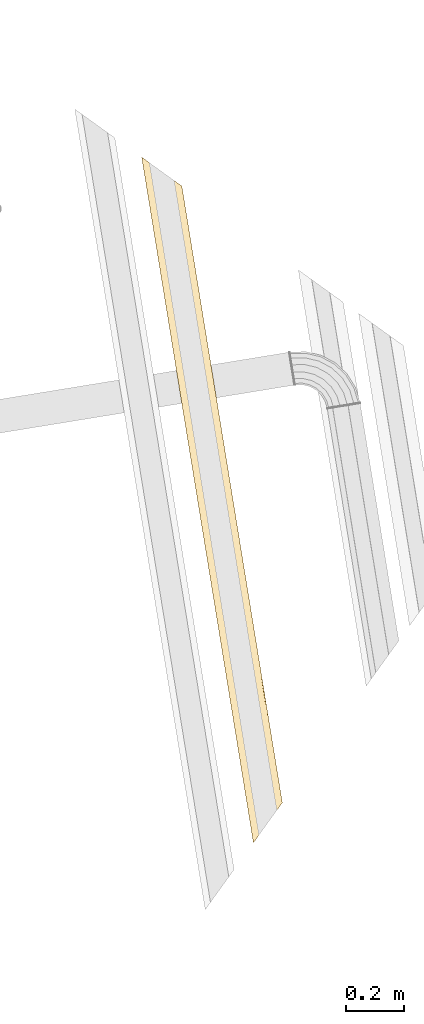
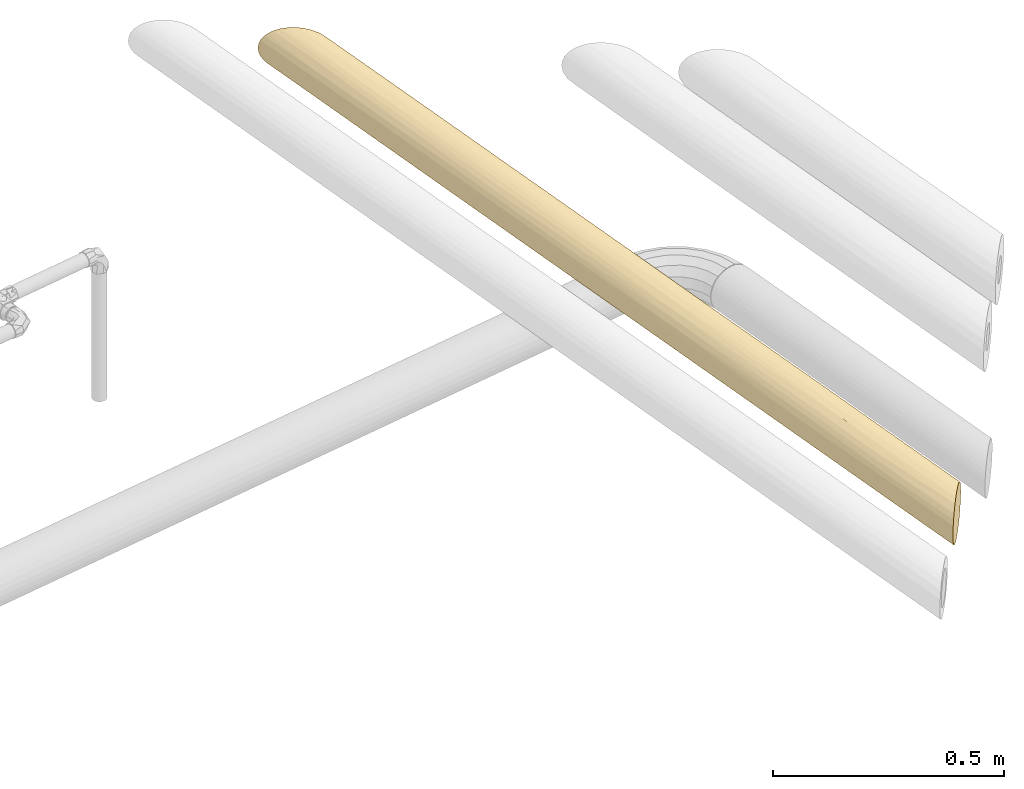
# One storey, part 8 of 46: 1 covering.
"""IFC2X3 building model written with IfcOpenShell, lengths in millimetres."""

from ifc_helpers import new_model, entity, si_unit, converted_unit, derived_unit, direction, frame, origin, origin_with_axes, place, context, subcontext, project, spatial, faceted_brep, type_object, element, save


model = new_model("IFC2X3")

# Units and contexts
model_context = context("Model", 3, precision=0.01, world=origin(), true_north=direction((6.12323399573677e-17, 1.0)))
plan_context = context("Plan", 3, precision=1e-05, world=origin_with_axes())
body_context = subcontext(model_context, "Body", "Model", "MODEL_VIEW")
ifc_project = project(units=[converted_unit("PLANEANGLEUNIT", "DEGREE", entity("IfcPositiveLengthMeasure", 0.0174532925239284), si_unit("PLANEANGLEUNIT", "RADIAN"), dimensions=[0, 0, 0, 0, 0, 0, 0]), si_unit("AREAUNIT", "SQUARE_METRE"), si_unit("LENGTHUNIT", "METRE", prefix="MILLI"), si_unit("MASSUNIT", "GRAM", prefix="KILO"), si_unit("POWERUNIT", "WATT"), si_unit("PRESSUREUNIT", "PASCAL", prefix="KILO"), si_unit("FORCEUNIT", "NEWTON", prefix="KILO"), si_unit("ELECTRICVOLTAGEUNIT", "VOLT"), si_unit("ELECTRICCURRENTUNIT", "AMPERE"), si_unit("THERMODYNAMICTEMPERATUREUNIT", "DEGREE_CELSIUS"), si_unit("TIMEUNIT", "SECOND"), si_unit("VOLUMEUNIT", "CUBIC_METRE"), derived_unit("LINEARVELOCITYUNIT", [(si_unit("LENGTHUNIT", "METRE"), 1), (si_unit("TIMEUNIT", "SECOND"), -1)]), derived_unit("VOLUMETRICFLOWRATEUNIT", [(si_unit("VOLUMEUNIT", "CUBIC_METRE"), 1), (si_unit("TIMEUNIT", "SECOND"), -1)]), derived_unit("THERMALTRANSMITTANCEUNIT", [(si_unit("POWERUNIT", "WATT"), 1), (si_unit("THERMODYNAMICTEMPERATUREUNIT", "KELVIN"), -1), (si_unit("AREAUNIT", "SQUARE_METRE"), -1)]), derived_unit("SOUNDPRESSUREUNIT", [(si_unit("PRESSUREUNIT", "PASCAL"), 1)])], contexts=[model_context, plan_context])

# Site, building, storey
site_placement = place(None, frame((-3.09682673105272e-06, 1.93776733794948e-05, 0.0), z_axis=(0.0, 0.0, 1.0), x_axis=(-0.160806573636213, 0.986985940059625, 0.0)))
site = spatial("IfcSite", under=ifc_project, at=site_placement, Name="Default", CompositionType="ELEMENT")
building_placement = place(site_placement, frame((0.0, 0.0, 0.0), z_axis=(0.0, 0.0, 1.0), x_axis=(1.0, -2.77555756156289e-17, 0.0)))
building = spatial("IfcBuilding", under=site, at=building_placement, Name="Bygning (endres i Project Information)", CompositionType="ELEMENT")
storey_placement = place(building_placement, frame((0.0, 0.0, 51360.0000000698), z_axis=(0.0, 0.0, 1.0), x_axis=(1.0, -2.77555756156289e-17, 0.0)))
storey = spatial("IfcBuildingStorey", under=building, at=storey_placement, Name="H01-Nivå D+0,36", CompositionType="ELEMENT", Elevation=51360.0000000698)

# Covering
covering_type = type_object("IfcCoveringType", Name="Pipe Insulation:GLAVA avløpsisol. slange økende 19mm (15,5-25,0)", PredefinedType="INSULATION")
covering_placement = place(storey_placement, frame((999799.867642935, -356662.461006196, 3598.35472846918), z_axis=(0.0, 0.0, 1.0), x_axis=(1.0, -2.77555756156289e-17, 0.0)))
element("IfcCovering", 1, at=covering_placement, inside=storey, type_object=covering_type, Name="Pipe Insulation:GLAVA avløpsisol. slange økende 19mm (15,5-25,0)", ObjectType="Pipe Insulation:GLAVA avløpsisol. slange økende 19mm (15,5-25,0)", PredefinedType="INSULATION", context=body_context, shape_type="Brep", body=[
    faceted_brep([(6955.83632978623, 115.965629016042, 36.048491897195), (6959.69852542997, 112.103433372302, 29.6857093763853), (7070.00736755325, 115.878317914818, 35.8619611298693), (6962.91406898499, 108.887889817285, 24.5926855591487), (7176.70875721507, 107.78024546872, 23.2061430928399), (7487.47655863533, 113.241761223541, 30.9238674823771), (7527.90381443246, 102.867905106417, 17.979530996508), (7203.4904174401, 97.6938975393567, 13.6192475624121), (7608.30264200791, 92.415772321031, 10.078046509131), (7230.3298394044, 85.6441613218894, 6.59932977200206), (6985.73664819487, 86.0653106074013, 7.21887650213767), (6988.32027353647, 83.4816852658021, 5.71858184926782), (6990.75463418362, 81.0473246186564, 4.95150562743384), (7244.39459541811, 73.5246713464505, 2.78202089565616), (7563.04482402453, 79.7145819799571, 4.37833137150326), (7594.21134831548, 61.6452715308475, 1.5952722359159), (7862.37224216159, 72.7074006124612, 2.62297307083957), (7761.6845732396, 61.6452715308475, 1.59527223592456), (8060.63151289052, 61.6452715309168, 1.5952722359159), (8138.21333602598, 78.2204143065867, 3.92814186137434), (7898.74747230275, 85.4346906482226, 6.50847843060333), (8333.82460072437, 96.0123250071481, 12.4019161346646), (7905.54542409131, 98.58052439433, 14.2977318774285), (8288.03691973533, 107.14396142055, 22.4550733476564), (7897.39625349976, 109.334263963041, 25.1519513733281), (8228.10532693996, 115.40537909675, 34.8898375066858), (8617.05437461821, 107.643949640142, 23.0431468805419), (8758.16910968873, 114.022025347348, 32.2738896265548), (9108.11957542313, 109.96563482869, 25.9921523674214), (9239.84423281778, 117.768765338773, 40.2874659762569), (8877.56233476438, 120.047104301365, 47.6728578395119), (9329.86496861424, 119.551579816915, 46.8597106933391), (9331.07836288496, 120.764974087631, 51.2052952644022), (9328.35034395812, 118.03695516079, 41.0727141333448), (9326.37525023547, 116.061861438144, 36.8005404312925), (9322.34796474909, 112.034575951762, 94.2385255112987), (9317.2863766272, 106.972987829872, 100.688654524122), (9141.82562959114, 110.867866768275, 96.0420523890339), (9311.12014220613, 100.806753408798, 106.977215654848), (9188.55273349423, 97.8094518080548, 109.584342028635), (8865.48160713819, 100.904800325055, 107.08415151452), (8741.34585410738, 110.493282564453, 96.5719695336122), (8911.20629341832, 117.078889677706, 84.7345849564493), (8565.05804900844, 117.033770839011, 84.8426110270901), (8356.92413114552, 111.186129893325, 95.5820623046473), (8541.04585576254, 103.758542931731, 104.452686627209), (8203.91308143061, 102.480274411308, 105.673727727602), (8273.95976500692, 92.5554997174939, 113.128863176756), (7940.78251789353, 95.7728634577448, 111.054884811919), (7859.45303001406, 107.398094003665, 100.538479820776), (7567.11930119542, 104.022933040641, 104.190967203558), (7594.21039981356, 94.6901449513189, 111.785462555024), (7710.00815313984, 85.0696807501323, 116.938123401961), (7360.99986692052, 78.4990596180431, 119.2816510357), (7259.30102237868, 95.9267695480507, 110.948225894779), (6981.91437851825, 89.8875802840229, 114.61402787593), (6981.58128088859, 90.2206779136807, 114.450741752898), (6981.26950236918, 90.5324564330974, 114.191895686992), (7183.84432971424, 105.304865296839, 102.874415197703), (6970.41353272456, 101.388426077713, 106.199887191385), (7004.89981223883, 66.902146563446, 2.03498822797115), (7010.15668727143, 61.6452715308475, 1.59527223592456), (7127.7901593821, 61.6452715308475, 1.59527223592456), (6999.6091508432, 72.192807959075, 2.53550327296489), (7021.06880294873, 50.7331558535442, 2.78712638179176), (7295.26380178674, 61.6452715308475, 1.59527223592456), (7035.88424795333, 35.9177108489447, 7.38612988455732), (7037.74631125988, 34.0556475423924, 8.51623215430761), (7070.00735867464, 35.8619610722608, 7.41222517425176), (7047.75952955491, 24.0424292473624, 14.8422274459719), (7176.70875064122, 23.2061428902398, 15.5102977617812), (7487.47654593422, 30.9238674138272, 10.0487818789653), (7527.90380830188, 17.9795310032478, 20.422637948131), (7203.490413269, 13.6192472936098, 25.5966458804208), (7608.30264050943, 10.0780465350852, 30.874770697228), (7230.3298375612, 6.59932957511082, 37.646382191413), (7062.33174557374, 9.47021322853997, 33.134865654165), (7065.80139914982, 6.0005596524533, 39.116525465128), (7067.5069466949, 4.29501210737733, 44.5195991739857), (7244.394589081, 2.78202082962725, 49.7658720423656), (7563.04482471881, 4.37833141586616, 43.5759609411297), (7594.21040519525, 1.59527223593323, 61.6452715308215), (7862.3722385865, 2.62297306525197, 50.5831424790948), (8060.63147128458, 1.59527223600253, 61.6452715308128), (7674.74366523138, 2.86480715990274, 73.927755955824), (7977.57618612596, 4.27517935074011, 79.3843509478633), (7710.00816094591, 6.35241968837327, 85.0696808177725), (7940.78251742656, 12.2356582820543, 95.7728635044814), (7594.21040056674, 11.5050805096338, 94.6901449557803), (7360.99986755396, 4.00889203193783, 78.499059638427), (7259.30102347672, 12.342317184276, 95.9267695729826), (7064.13784893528, 7.66410986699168, 87.4174153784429), (7061.94858974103, 9.8533690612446, 91.8719225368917), (7058.39448170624, 13.4074770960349, 96.1566582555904), (7183.84433138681, 20.4161278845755, 105.304865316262), (7053.4180075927, 18.383951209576, 102.91155199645), (7056.8630444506, 14.9389143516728, 23.9812821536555), (7059.30655947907, 12.4953993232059, 27.2838384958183), (7069.9999085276, 1.80205027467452, 59.1732069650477), (7070.20668656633, 1.59527223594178, 61.6452715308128), (7127.78933910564, 1.59527223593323, 61.6452715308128), (7070.03063549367, 1.77132330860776, 63.3838215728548), (7069.26371815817, 2.53824064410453, 68.7223817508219), (7068.05003774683, 3.75192105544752, 77.5872623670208), (7360.99987215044, 1.59527223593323, 61.6452715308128), (7069.196375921, 2.60558288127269, 50.7191152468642), (7021.41767916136, 50.3842796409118, 120.629491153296), (7010.70957378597, 61.0923850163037, 121.643892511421), (7185.7499977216, 50.5802413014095, 120.66702617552), (7010.15668727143, 61.6452715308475, 121.69527082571), (7370.00154299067, 61.6452715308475, 121.695270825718), (7464.31234833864, 42.498940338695, 118.561178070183), (7031.73762854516, 40.0643302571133, 117.679160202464), (7030.24090236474, 41.5610564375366, 118.093196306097), (7033.38575134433, 38.4162074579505, 116.896559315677), (7195.02954729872, 30.9238391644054, 113.241744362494), (7512.57035378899, 28.2915447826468, 111.580542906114), (7567.11930454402, 19.0995758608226, 104.022933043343), (7859.45303252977, 22.7520632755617, 107.398094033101), (7881.72149205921, 35.079157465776, 115.499185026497), (8356.92413389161, 27.7084807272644, 111.186129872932), (8252.11030770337, 37.4590015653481, 116.609139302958), (8565.05805149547, 38.447932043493, 117.033770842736), (8291.24999826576, 48.6162535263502, 120.264782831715), (7896.04833309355, 49.1230061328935, 120.375121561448), (8107.00046289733, 61.6452715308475, 121.695270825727), (7738.49976855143, 61.6452715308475, 121.695270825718), (8060.63065333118, 61.6452715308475, 121.695270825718), (7594.20980125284, 61.6452715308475, 121.695270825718), (7674.74366293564, 73.9277558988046, 120.425735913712), (7977.57618021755, 79.3843510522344, 119.015363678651), (8339.2889028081, 72.4276226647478, 120.719320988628), (8452.31573249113, 82.8594981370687, 117.823194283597), (8648.15786550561, 72.4276226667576, 120.719320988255), (8974.97957575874, 80.6243942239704, 118.617153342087), (8844.0, 61.6452715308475, 121.695270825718), (9235.68340831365, 61.6452715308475, 121.695270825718), (9271.95866032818, 61.6452715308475, 121.695270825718), (9270.23724560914, 59.9238568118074, 121.55107466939), (9077.21053183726, 51.6550647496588, 120.858430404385), (8736.18517815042, 49.2981530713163, 120.41219318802), (8475.50115724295, 61.6452715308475, 121.69527082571), (8911.20629585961, 38.5559581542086, 117.078889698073), (8741.34585767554, 26.7185735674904, 110.493282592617), (9141.82563259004, 27.2484907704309, 110.8678668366), (8865.48160656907, 16.2063915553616, 100.904800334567), (9188.55273445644, 13.7062009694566, 97.8094517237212), (9235.09197338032, 24.7785845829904, 108.797539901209), (9224.79039969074, 14.4770108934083, 98.6956189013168), (9238.52799442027, 28.214605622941, 111.492850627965), (9261.28326352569, 50.9698747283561, 120.736091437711), (9250.93080912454, 40.6174203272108, 117.879726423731), (9295.04150303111, 84.7281142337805, 116.985713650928), (9286.16819394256, 75.8548051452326, 119.892211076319), (9298.62578990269, 88.3124011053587, 115.401486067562), (8918.30341659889, 91.3189631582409, 113.851348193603), (9303.6756961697, 93.3623073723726, 112.254675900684), (9307.36570871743, 97.0523199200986, 110.134497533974), (9216.2164261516, 5.90303735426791, 83.7174473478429), (9214.00739099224, 3.69400219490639, 76.9608141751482), (8974.97957492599, 4.67338980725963, 80.6243944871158), (9218.5289088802, 8.21552008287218, 88.9455909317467), (8918.30341011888, 9.43919492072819, 91.3189632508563), (9223.21556825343, 12.9021794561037, 96.470443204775), (9223.85611982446, 13.5427310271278, 97.584482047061), (8452.31573314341, 5.46734877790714, 82.8594981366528), (8648.15786615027, 2.57122207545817, 72.4276226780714), (8844.0, 1.59527223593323, 61.6452715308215), (9212.18610179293, 1.87271299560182, 63.3559216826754), (9211.90866103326, 1.59527223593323, 61.6452715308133), (9212.18590169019, 1.8725128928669, 59.9330059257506), (8975.63457158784, 4.66341569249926, 42.6961153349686), (9214.00061102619, 3.68722222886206, 46.355505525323), (9221.69616782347, 11.3827790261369, 28.9629338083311), (9222.42243025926, 12.1090414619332, 27.7029833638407), (9182.10200001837, 12.0505121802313, 27.7872996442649), (9216.1890793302, 5.87569053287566, 39.6392863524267), (8880.98127725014, 9.47343901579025, 31.9114136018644), (8452.315717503, 3.89686911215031, 45.1794149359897), (8333.82459914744, 12.4019161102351, 27.278218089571), (8843.99998912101, 16.5959522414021, 21.9393368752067), (8617.05436639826, 23.0431471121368, 15.6465932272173), (8288.03691343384, 22.4550734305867, 16.1465815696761), (8228.10532083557, 34.8898377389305, 7.88516384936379), (8758.16910701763, 32.2738897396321, 9.268517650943), (9108.11957576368, 25.9921525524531, 13.3249080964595), (9239.84423570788, 40.2874660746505, 5.52177768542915), (8877.56233310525, 47.6728578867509, 3.24343874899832), (9251.44802577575, 41.1346369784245, 5.29197057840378), (9260.97263038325, 50.6592415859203, 2.63653921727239), (9250.69714457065, 40.3837557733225, 5.48889137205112), (9250.18418760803, 39.870798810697, 5.7257427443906), (9302.2492085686, 91.9358197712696, 10.0242976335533), (9306.0758806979, 95.7624919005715, 12.2304730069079), (9182.10200406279, 95.503243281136, 12.0505120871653), (9294.96569344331, 84.6523046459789, 6.27268533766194), (8975.63457686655, 80.5944274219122, 4.6634155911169), (8880.98129162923, 91.3791291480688, 9.47343883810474), (8452.31572821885, 78.1111282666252, 3.89686915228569), (8843.99999470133, 101.351205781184, 16.5959518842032), (8844.00051217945, 61.6452715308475, 1.5952722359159), (8452.31652471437, 61.6452715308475, 1.59527223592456), (8694.52710776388, 61.6452715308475, 1.59527223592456), (9160.94787921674, 61.6452715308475, 1.5952722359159), (8461.31585585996, 47.9028557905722, 3.18889099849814), (8228.10534469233, 61.6452715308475, 1.59527223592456), (8102.86671587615, 49.0213114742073, 2.93719672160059), (7819.57704686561, 40.9947499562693, 5.257698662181), (7672.4838756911, 50.7047614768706, 2.60030853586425), (7396.40431467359, 45.9352600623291, 3.68668325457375), (7897.39624455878, 25.1519515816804, 13.9562789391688), (9235.68449964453, 61.6452715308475, 1.59527223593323), (9274.31596044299, 64.0025716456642, 1.83220024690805), (9286.14092954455, 75.8275407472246, 3.39178198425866), (9271.95866032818, 61.6452715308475, 1.59527223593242), (9267.46474526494, 57.1513564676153, 1.96946947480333), (9310.22702963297, 99.9136408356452, 15.7126475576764), (9316.57212562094, 106.258736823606, 21.6774824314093), (9321.96744410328, 111.654055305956, 28.5070474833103), (9233.70608015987, 23.3926913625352, 15.5582046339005), (9237.83097415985, 27.5175853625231, 12.3007811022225), (9223.5485475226, 13.2351587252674, 26.3606014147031), (7905.54542005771, 14.2977319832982, 24.710018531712), (7898.74746867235, 6.50847844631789, 37.8558523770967), (8138.21332875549, 3.9281418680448, 45.0701287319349), (8452.31573564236, 1.59527223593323, 61.6452715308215), (8339.2889041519, 2.57122207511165, 72.4276226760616), (8273.95976234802, 10.1616798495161, 92.5554996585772), (8609.67549944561, 10.7562465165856, 93.5248817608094), (8541.04585583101, 18.8378565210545, 103.758543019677), (8203.91308177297, 17.6168153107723, 102.480274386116), (9250.51235440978, 40.1989656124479, 117.692176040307), (9250.79041035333, 40.4770215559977, 117.84029330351), (9274.32259677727, 64.0092079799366, 121.457040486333), (8609.67550234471, 93.524881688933, 112.534296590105), (8452.31659168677, 61.6452715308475, 121.695270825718), (7047.69215436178, 24.109804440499, 108.215595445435), (7041.87274089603, 29.9292179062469, 112.621578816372), (7051.22188009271, 20.580078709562, 105.457305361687), (7127.7889491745, 61.6452715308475, 121.695270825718), (6997.76289634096, 77.368495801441, 119.600276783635), (7006.50604080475, 65.2959179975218, 121.325594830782), (6994.4783055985, 77.3236532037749, 119.610936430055), (6994.3623681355, 77.4395906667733, 119.576501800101), (7051.13191411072, 20.6700446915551, 17.9678948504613), (7023.46679109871, 48.3351677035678, 3.09648628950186), (7030.95725021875, 40.8447085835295, 5.70169010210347), (6966.24698087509, 105.554977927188, 102.605416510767), (6961.7490277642, 110.052931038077, 96.8491849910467), (6959.51386915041, 112.288089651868, 93.8961749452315), (7195.02954489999, 113.24174435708, 92.3667039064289), (7512.57035104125, 111.580542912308, 94.9989982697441), (7464.31234613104, 118.561178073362, 80.7916027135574), (7001.49999583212, 117.617505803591, 83.3963957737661), (7185.749995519, 120.667026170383, 72.7103017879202), (7370.00098592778, 121.695270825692, 61.6452715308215), (7001.50073944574, 121.695270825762, 61.6452715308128), (7295.26168051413, 121.695270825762, 61.6452715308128), (6951.18850864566, 120.613450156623, 72.9900097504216), (6950.38617699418, 121.415781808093, 64.5298532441), (6950.10668797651, 121.695270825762, 61.6452715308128), (6954.33952959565, 117.462429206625, 83.7653816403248), (6953.48859127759, 118.313367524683, 80.993768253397), (6951.52359942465, 120.278359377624, 48.6775052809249), (6951.76580759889, 120.036151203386, 47.9595330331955), (6969.53408224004, 120.279408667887, 48.682232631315), (6951.33944731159, 120.462511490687, 50.358645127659), (7396.40431706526, 119.603859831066, 45.9352601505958), (7672.4838753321, 120.690234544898, 50.7047615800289), (7819.57705596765, 118.032844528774, 40.99475030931), (8102.86672583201, 120.353346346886, 49.021311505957), (7761.68324230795, 121.695270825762, 61.6452715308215), (8228.10480410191, 121.695270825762, 61.6452715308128), (8107.00147889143, 121.695270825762, 61.6452715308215), (7738.50123240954, 121.695270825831, 61.6452715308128), (7896.04833134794, 120.37512155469, 74.1675369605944), (7881.72148967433, 115.499185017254, 88.2113856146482), (8252.11030567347, 116.609139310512, 85.8315414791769), (8291.24999653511, 120.264782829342, 74.6742895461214), (8736.18517665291, 120.412193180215, 73.992390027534), (8475.50172537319, 121.695270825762, 61.6452715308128), (8694.52436265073, 121.695270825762, 61.6452715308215), (8844.0, 121.695270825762, 61.6452715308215), (9077.21053052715, 120.858430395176, 71.6354783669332), (9160.94592444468, 121.695270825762, 61.6452715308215), (9310.42058969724, 121.695270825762, 61.6452715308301), (9331.69273659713, 121.379347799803, 65.0282976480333), (9331.00314278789, 120.68975399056, 72.5801928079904), (9329.85615217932, 119.542763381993, 76.7412277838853), (9252.94838855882, 117.845131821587, 82.8013136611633), (9328.34037077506, 118.026981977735, 82.2754170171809), (9332.00865962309, 121.695270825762, 61.6452715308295), (9331.40981933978, 121.096430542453, 54.453509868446), (8461.31586083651, 120.101652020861, 47.9028556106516), (6956.19396294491, 115.607995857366, 87.3102778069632), (6990.13243669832, 81.6695221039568, 117.886424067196), (9326.78261565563, 116.469226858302, 85.6550933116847), (7361.00075384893, 61.6452715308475, 1.59527223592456), (6976.76117339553, 95.040785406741, 11.8519954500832), (6971.55285269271, 100.249106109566, 15.7067183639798), (6968.10420149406, 103.697757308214, 18.993251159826)], [[[0, 1, 2]], [[1, 3, 4, 2]], [[2, 4, 5]], [[4, 6, 5]], [[6, 4, 7]], [[6, 7, 8]], [[9, 8, 7]], [[10, 11, 9, 7]], [[11, 12, 13, 9]], [[9, 13, 14]], [[13, 15, 14]], [[14, 15, 16]], [[15, 17, 18, 16]], [[16, 18, 19]], [[20, 16, 19]], [[20, 19, 21]], [[22, 20, 21]], [[8, 20, 22]], [[20, 8, 14]], [[21, 23, 22]], [[24, 22, 23]], [[25, 24, 23]], [[23, 26, 25]], [[25, 26, 27]], [[28, 27, 26]], [[27, 28, 29]], [[29, 30, 27]], [[31, 32, 30, 29]], [[33, 31, 29]], [[34, 33, 29]], [[35, 36, 37]], [[36, 38, 39, 37]], [[40, 37, 39]], [[40, 41, 37]], [[42, 37, 41]], [[42, 41, 43]], [[44, 43, 41]], [[41, 45, 44]], [[44, 45, 46]], [[46, 45, 47]], [[47, 48, 46]], [[46, 48, 49]], [[49, 48, 50]], [[51, 50, 48]], [[52, 51, 48]], [[51, 52, 53]], [[51, 53, 54]], [[55, 56, 54, 53]], [[56, 57, 58, 54]], [[57, 59, 58]], [[60, 61, 62]], [[63, 60, 62, 13]], [[61, 64, 65]], [[66, 67, 68]], [[67, 69, 70, 68]], [[68, 70, 71]], [[70, 72, 71]], [[72, 70, 73]], [[72, 73, 74]], [[75, 74, 73]], [[76, 77, 75, 73]], [[77, 78, 79, 75]], [[75, 79, 80]], [[79, 81, 80]], [[80, 81, 82]], [[83, 82, 81]], [[81, 84, 83]], [[84, 85, 83]], [[85, 84, 86]], [[85, 86, 87]], [[86, 88, 87]], [[88, 86, 89]], [[88, 89, 90]], [[91, 92, 90, 89]], [[92, 93, 94, 90]], [[93, 95, 94]], [[96, 97, 73]], [[98, 99, 100]], [[99, 101, 100]], [[101, 102, 100]], [[102, 103, 89, 100]], [[81, 104, 100, 89]], [[105, 98, 100, 79]], [[106, 107, 108]], [[107, 109, 110, 108]], [[111, 108, 110]], [[112, 113, 108, 111]], [[114, 112, 111, 115]], [[116, 115, 111]], [[116, 94, 115]], [[116, 117, 94]], [[116, 118, 117]], [[119, 118, 116]], [[119, 120, 118]], [[121, 120, 119]], [[120, 121, 122]], [[123, 122, 121]], [[123, 121, 124]], [[125, 123, 124]], [[126, 127, 125, 124]], [[111, 126, 124]], [[111, 124, 119]], [[127, 126, 128, 129]], [[129, 130, 127]], [[130, 129, 52]], [[130, 131, 127]], [[131, 130, 132]], [[133, 131, 132]], [[133, 132, 134]], [[133, 134, 135]], [[136, 135, 134]], [[137, 138, 139, 135]], [[135, 139, 140]], [[141, 135, 140]], [[123, 141, 140]], [[140, 139, 142]], [[142, 122, 140]], [[142, 143, 122]], [[142, 144, 143]], [[145, 143, 144]], [[145, 144, 146]], [[147, 148, 146, 144]], [[149, 147, 144]], [[150, 151, 139]], [[152, 153, 134]], [[154, 152, 134, 155]], [[156, 154, 155, 39]], [[157, 156, 39]], [[158, 159, 160]], [[161, 158, 160, 162]], [[163, 161, 162, 146]], [[164, 163, 146]], [[162, 160, 165]], [[166, 165, 160]], [[166, 160, 167]], [[168, 169, 167, 160]], [[169, 170, 171, 167]], [[170, 172, 171]], [[173, 174, 175]], [[176, 173, 175, 171]], [[177, 171, 175]], [[171, 177, 178]], [[177, 179, 178]], [[177, 180, 179]], [[180, 181, 179]], [[182, 179, 181]], [[182, 181, 183]], [[183, 181, 184]], [[185, 184, 181]], [[184, 185, 186]], [[186, 187, 184]], [[188, 189, 187, 186]], [[190, 188, 186]], [[191, 190, 186]], [[192, 193, 194]], [[195, 192, 194, 196]], [[197, 196, 194]], [[196, 197, 198]], [[197, 21, 198]], [[197, 199, 21]], [[199, 26, 21]], [[198, 200, 196]], [[201, 202, 200, 198]], [[19, 201, 198]], [[203, 200, 202, 187]], [[204, 187, 202]], [[202, 201, 205, 204]], [[206, 204, 205]], [[204, 206, 183]], [[183, 206, 207]], [[208, 207, 206]], [[17, 208, 206]], [[207, 208, 209]], [[209, 208, 65]], [[209, 71, 207]], [[210, 207, 71]], [[183, 207, 210]], [[200, 203, 211, 196]], [[212, 213, 196, 211]], [[214, 212, 211]], [[215, 214, 203]], [[199, 197, 194]], [[199, 194, 28]], [[216, 217, 28, 194]], [[217, 218, 28]], [[213, 195, 196]], [[193, 216, 194]], [[219, 220, 185]], [[221, 219, 185, 175]], [[180, 175, 185]], [[189, 215, 203, 187]], [[187, 204, 184]], [[220, 191, 186, 185]], [[184, 204, 183]], [[183, 210, 182]], [[210, 222, 182]], [[210, 72, 222]], [[179, 182, 222]], [[222, 223, 179]], [[223, 224, 179]], [[223, 82, 224]], [[74, 223, 222]], [[223, 74, 80]], [[185, 181, 180]], [[179, 224, 178]], [[178, 224, 225]], [[225, 224, 83]], [[225, 167, 178]], [[180, 177, 175]], [[174, 221, 175]], [[172, 176, 171]], [[178, 167, 171]], [[83, 226, 166, 167, 225]], [[166, 226, 165]], [[226, 85, 165]], [[85, 227, 165]], [[165, 227, 228]], [[229, 228, 227]], [[230, 229, 227]], [[227, 87, 230]], [[230, 87, 118]], [[120, 229, 230]], [[143, 229, 120]], [[229, 145, 228]], [[162, 228, 145]], [[228, 162, 165]], [[159, 168, 160]], [[231, 149, 144]], [[148, 164, 146]], [[162, 145, 146]], [[143, 145, 229]], [[232, 231, 144, 142]], [[151, 232, 142, 139]], [[138, 150, 139]], [[233, 137, 136]], [[153, 233, 136, 134]], [[155, 134, 132]], [[234, 155, 132]], [[132, 47, 234]], [[155, 234, 40]], [[45, 40, 234]], [[130, 47, 132]], [[128, 53, 129]], [[133, 135, 141, 235, 125, 127, 131]], [[125, 235, 141, 123]], [[123, 140, 122]], [[120, 122, 143]], [[119, 124, 121]], [[230, 118, 120]], [[118, 87, 117]], [[236, 237, 115, 94]], [[238, 236, 94]], [[111, 119, 116]], [[237, 114, 115]], [[110, 128, 126, 111]], [[128, 110, 239, 53]], [[240, 53, 239]], [[241, 242, 240, 239]], [[242, 243, 240]], [[113, 106, 108]], [[109, 241, 239]], [[95, 238, 94]], [[117, 90, 94]], [[103, 91, 89]], [[90, 117, 88]], [[88, 117, 87]], [[227, 85, 87]], [[84, 89, 86]], [[85, 226, 83]], [[81, 89, 84]], [[82, 83, 224]], [[82, 223, 80]], [[79, 100, 104, 81]], [[78, 105, 79]], [[97, 76, 73]], [[75, 80, 74]], [[74, 222, 72]], [[244, 96, 73, 70]], [[210, 71, 72]], [[71, 209, 68]], [[245, 246, 68, 209]], [[69, 244, 70]], [[246, 66, 68]], [[64, 245, 209, 65]], [[247, 248, 58]], [[248, 249, 250, 58]], [[251, 58, 250]], [[251, 50, 58]], [[251, 250, 252]], [[253, 252, 250]], [[253, 254, 252]], [[252, 254, 255]], [[256, 257, 255, 254]], [[258, 259, 256, 254]], [[259, 260, 256]], [[261, 262, 253]], [[263, 264, 265]], [[266, 263, 265]], [[260, 266, 265, 257]], [[265, 267, 257]], [[267, 268, 257]], [[269, 268, 267]], [[268, 269, 270]], [[271, 268, 270]], [[272, 273, 271, 270]], [[274, 271, 273, 275]], [[252, 274, 275]], [[252, 275, 276]], [[276, 275, 277]], [[277, 44, 276]], [[276, 44, 49]], [[276, 49, 251]], [[278, 277, 275]], [[278, 43, 277]], [[278, 279, 43]], [[278, 280, 279]], [[280, 281, 282, 279]], [[282, 283, 279]], [[282, 284, 285, 283]], [[286, 287, 283, 285]], [[287, 288, 289, 283]], [[288, 290, 289]], [[289, 42, 283]], [[291, 286, 285]], [[292, 291, 284]], [[279, 283, 42]], [[284, 282, 281, 30]], [[293, 30, 281]], [[281, 280, 272, 293]], [[273, 278, 275]], [[273, 272, 280, 278]], [[270, 293, 272]], [[293, 270, 25]], [[25, 270, 269]], [[267, 5, 269]], [[24, 269, 5]], [[267, 265, 2]], [[271, 274, 255, 257, 268]], [[255, 274, 252]], [[262, 258, 254, 253]], [[252, 276, 251]], [[249, 294, 253, 250]], [[294, 261, 253]], [[243, 295, 240]], [[59, 247, 58]], [[50, 54, 58]], [[295, 55, 53, 240]], [[129, 53, 52]], [[130, 52, 48]], [[54, 50, 51]], [[251, 49, 50]], [[47, 130, 48]], [[45, 234, 47]], [[46, 49, 44]], [[44, 277, 43]], [[42, 43, 279]], [[37, 42, 289]], [[41, 40, 45]], [[155, 40, 39]], [[38, 157, 39]], [[296, 35, 37, 289]], [[290, 296, 289]], [[32, 292, 284, 30]], [[27, 30, 293]], [[218, 34, 29, 28]], [[28, 26, 199]], [[27, 293, 25]], [[25, 269, 24]], [[24, 6, 22]], [[23, 21, 26]], [[21, 19, 198]], [[18, 205, 201, 19]], [[17, 15, 297, 65, 208]], [[205, 18, 17, 206]], [[16, 20, 14]], [[13, 62, 65, 297, 15]], [[12, 63, 13]], [[298, 10, 7]], [[299, 298, 7]], [[9, 14, 8]], [[8, 22, 6]], [[300, 299, 7, 4]], [[24, 5, 6]], [[5, 267, 2]], [[264, 0, 2, 265]], [[3, 300, 4]], [[33, 34, 218, 217, 216, 193, 192, 195, 213, 212, 214, 215, 189, 188, 190, 191, 220, 219, 221, 174, 173, 176, 172, 170, 169, 168, 159, 158, 161, 163, 164, 148, 147, 149, 231, 232, 151, 150, 138, 137, 233, 153, 152, 154, 156, 157, 38, 36, 35, 296, 290, 288, 287, 286, 291, 292, 32, 31]], [[264, 263, 266, 260, 259, 258, 262, 261, 294, 249, 248, 247, 59, 57, 56, 55, 295, 243, 242, 241, 109, 107, 106, 113, 112, 114, 237, 236, 238, 95, 93, 92, 91, 103, 102, 101, 99, 98, 105, 78, 77, 76, 97, 96, 244, 69, 67, 66, 246, 245, 64, 61, 60, 63, 12, 11, 10, 298, 299, 300, 3, 1, 0]]], orient=[[False], [False], [False], [False], [False], [False], [False], [False], [False], [False], [False], [False], [False], [False], [False], [False], [False], [False], [False], [False], [False], [False], [False], [False], [False], [False], [False], [False], [False], [False], [False], [False], [False], [False], [False], [False], [False], [False], [False], [False], [False], [False], [False], [False], [False], [False], [False], [False], [False], [False], [False], [False], [False], [False], [False], [False], [False], [False], [False], [False], [False], [False], [False], [False], [False], [False], [False], [False], [False], [False], [False], [False], [False], [False], [False], [False], [False], [False], [False], [False], [False], [False], [False], [False], [False], [False], [False], [False], [False], [False], [False], [False], [False], [False], [False], [False], [False], [False], [False], [False], [False], [False], [False], [False], [False], [False], [False], [False], [False], [False], [False], [False], [False], [False], [False], [False], [False], [False], [False], [False], [False], [False], [False], [False], [False], [False], [False], [False], [False], [False], [False], [False], [False], [False], [False], [False], [False], [False], [False], [False], [False], [False], [False], [False], [False], [False], [False], [False], [False], [False], [False], [False], [False], [False], [False], [False], [False], [False], [False], [False], [False], [False], [False], [False], [False], [False], [False], [False], [False], [False], [False], [False], [False], [False], [False], [False], [False], [False], [False], [False], [False], [False], [False], [False], [False], [False], [False], [False], [False], [False], [False], [False], [False], [False], [False], [False], [False], [False], [False], [False], [False], [False], [False], [False], [False], [False], [False], [False], [False], [False], [False], [False], [False], [False], [False], [False], [False], [False], [False], [False], [False], [False], [False], [False], [False], [False], [False], [False], [False], [False], [False], [False], [False], [False], [False], [False], [False], [False], [False], [False], [False], [False], [False], [False], [False], [False], [False], [False], [False], [False], [False], [False], [False], [False], [False], [False], [False], [False], [False], [False], [False], [False], [False], [False], [False], [False], [False], [False], [False], [False], [False], [False], [False], [False], [False], [False], [False], [False], [False], [False], [False], [False], [False], [False], [False], [False], [False], [False], [False], [False], [False], [False], [False], [False], [False], [False], [False], [False], [False], [False], [False], [False], [False], [False], [False], [False], [False], [False], [False], [False], [False], [False], [False], [False], [False], [False], [False], [False], [False], [False], [False], [False], [False], [False], [False], [False], [False], [False], [False], [False], [False], [False], [False], [False], [False], [False], [False], [False], [False], [False], [False], [False], [False], [False], [False], [False], [False], [False], [False], [False], [False], [False], [False], [False], [False], [False], [False], [False], [False], [False], [False], [False], [False], [False], [False], [False], [False], [False], [False], [False], [False], [False], [False], [False], [False], [False], [False], [False], [False], [False], [False], [False], [False], [False], [False], [False], [False], [False]]),
])

save(model, "model.ifc")
